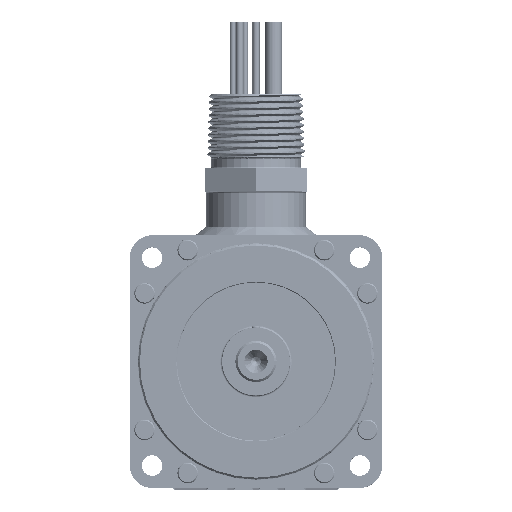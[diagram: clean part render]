
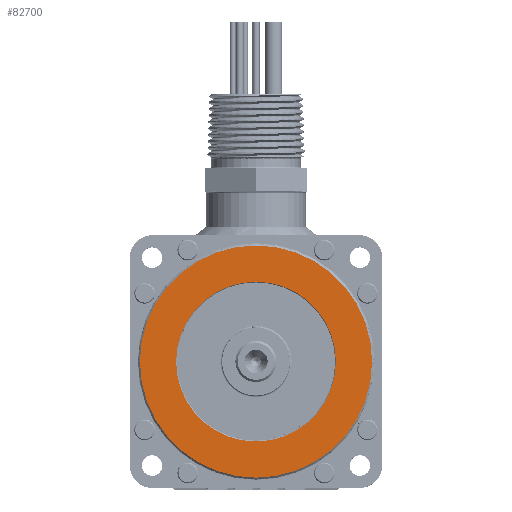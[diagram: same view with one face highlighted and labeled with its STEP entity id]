
A CAD part, top view. The second image highlights one B-rep face of the part: STEP entity #82700.
In plain terms, the highlighted planar face has unit normal (0, 0, 1).
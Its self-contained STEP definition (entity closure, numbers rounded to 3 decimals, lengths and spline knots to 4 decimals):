
#8761 = CARTESIAN_POINT ( 'NONE',  ( 0., 0., -1.2339 ) ) ;
#9838 = FACE_BOUND ( 'NONE', #106183, .T. ) ;
#18916 = VERTEX_POINT ( 'NONE', #163280 ) ;
#22010 = DIRECTION ( 'NONE',  ( 0., 0., -1. ) ) ;
#25122 = CARTESIAN_POINT ( 'NONE',  ( 0., 1.5548, -1.2339 ) ) ;
#29524 = ORIENTED_EDGE ( 'NONE', *, *, #78246, .T. ) ;
#35795 = CARTESIAN_POINT ( 'NONE',  ( -1.07, 0., -1.2339 ) ) ;
#41712 = VERTEX_POINT ( 'NONE', #35795 ) ;
#45226 = DIRECTION ( 'NONE',  ( -1., 0., 0. ) ) ;
#47218 = CARTESIAN_POINT ( 'NONE',  ( 0., 0., -1.2339 ) ) ;
#56708 = DIRECTION ( 'NONE',  ( 1., 0., 0. ) ) ;
#65497 = DIRECTION ( 'NONE',  ( -1., 0., 0. ) ) ;
#68677 = VERTEX_POINT ( 'NONE', #161081 ) ;
#69305 = DIRECTION ( 'NONE',  ( 0., 0., -1. ) ) ;
#70087 = CARTESIAN_POINT ( 'NONE',  ( 1.5548, 0., -1.2339 ) ) ;
#77784 = CARTESIAN_POINT ( 'NONE',  ( 0., 0., -1.2339 ) ) ;
#78224 = AXIS2_PLACEMENT_3D ( 'NONE', #47218, #111331, #65497 ) ;
#78246 = EDGE_CURVE ( 'NONE', #68677, #41712, #198544, .T. ) ;
#82700 = ADVANCED_FACE ( 'NONE', ( #9838, #150354 ), #180920, .T. ) ;
#84153 = DIRECTION ( 'NONE',  ( -1., 0., 0. ) ) ;
#85471 = EDGE_CURVE ( 'NONE', #41712, #68677, #186186, .T. ) ;
#89724 = EDGE_LOOP ( 'NONE', ( #170077, #115614 ) ) ;
#101507 = DIRECTION ( 'NONE',  ( 0., 0., 1. ) ) ;
#101724 = EDGE_CURVE ( 'NONE', #108347, #18916, #109489, .T. ) ;
#106183 = EDGE_LOOP ( 'NONE', ( #29524, #195684 ) ) ;
#108347 = VERTEX_POINT ( 'NONE', #70087 ) ;
#109489 = CIRCLE ( 'NONE', #132149, 1.5548 ) ;
#111331 = DIRECTION ( 'NONE',  ( 0., 0., -1. ) ) ;
#114223 = AXIS2_PLACEMENT_3D ( 'NONE', #77784, #151122, #45226 ) ;
#115614 = ORIENTED_EDGE ( 'NONE', *, *, #101724, .F. ) ;
#124286 = AXIS2_PLACEMENT_3D ( 'NONE', #8761, #22010, #84153 ) ;
#131536 = AXIS2_PLACEMENT_3D ( 'NONE', #25122, #101507, #56708 ) ;
#132149 = AXIS2_PLACEMENT_3D ( 'NONE', #147645, #69305, #194494 ) ;
#147645 = CARTESIAN_POINT ( 'NONE',  ( 0., 0., -1.2339 ) ) ;
#150354 = FACE_OUTER_BOUND ( 'NONE', #89724, .T. ) ;
#151122 = DIRECTION ( 'NONE',  ( 0., 0., -1. ) ) ;
#161081 = CARTESIAN_POINT ( 'NONE',  ( 1.07, 0., -1.2339 ) ) ;
#163035 = CIRCLE ( 'NONE', #114223, 1.5548 ) ;
#163280 = CARTESIAN_POINT ( 'NONE',  ( -1.5548, 0., -1.2339 ) ) ;
#170077 = ORIENTED_EDGE ( 'NONE', *, *, #177931, .F. ) ;
#177931 = EDGE_CURVE ( 'NONE', #18916, #108347, #163035, .T. ) ;
#180920 = PLANE ( 'NONE',  #131536 ) ;
#186186 = CIRCLE ( 'NONE', #124286, 1.07 ) ;
#194494 = DIRECTION ( 'NONE',  ( -1., 0., 0. ) ) ;
#195684 = ORIENTED_EDGE ( 'NONE', *, *, #85471, .T. ) ;
#198544 = CIRCLE ( 'NONE', #78224, 1.07 ) ;
